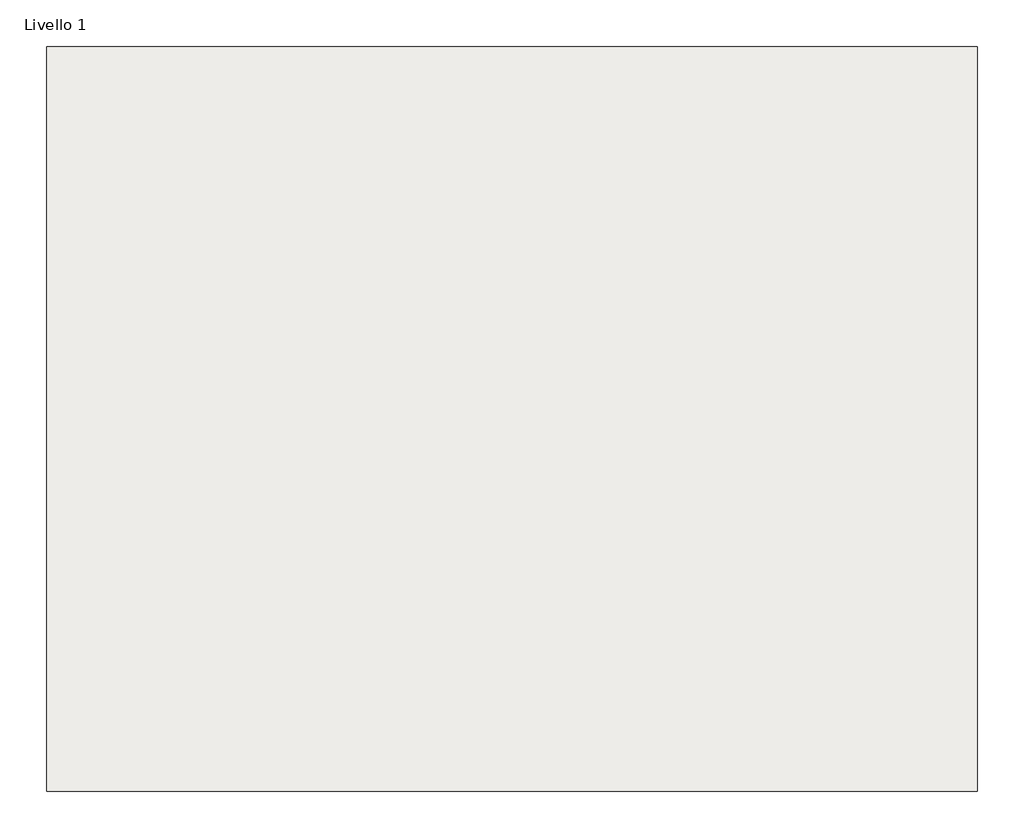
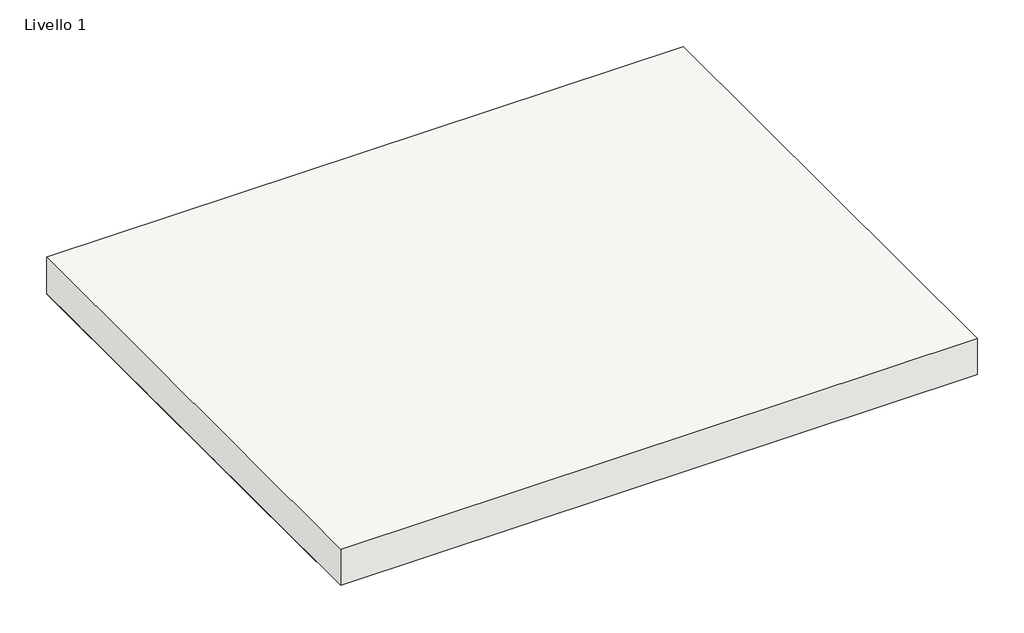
# One storey: 1 slab.
"""IFC4 building model written with IfcOpenShell, lengths in millimetres."""

import ifcopenshell
import ifcopenshell.guid

model = None  # the IFC model being written
_history = None  # IfcOwnerHistory: only IFC2X3 demands one
_inside = {}  # id of a spatial element -> (the spatial element, [elements in it])
_under = {}  # id of a project, library or spatial element -> (it, [spatial elements below it])
_declared = {}  # id of a project -> (the project, [libraries it declares])
_typed = {}  # id of a type object -> (the type object, [elements of that type])
_made_of = {}  # id of a material, layer set ... -> (it, [elements and type objects made of it])


def new_model(schema):
    """Start an empty IFC model of exactly this schema.

    Asked for "IFC4X3", IfcOpenShell would pick the latest addendum, in which some entities
    have other attributes; the version numbers below select the first issue.
    IFC2X3 requires an IfcOwnerHistory on every rooted entity: one is made here for all.
    """
    global model, _history
    if schema == "IFC4X3":
        model = ifcopenshell.file(schema_version=(4, 3, 0, 0))
    else:
        model = ifcopenshell.file(schema=schema)
    _inside.clear()
    _under.clear()
    _declared.clear()
    _typed.clear()
    _made_of.clear()
    _history = None
    if model.schema == "IFC2X3":
        org = make("IfcOrganization", Name="unknown")
        user = make(
            "IfcPersonAndOrganization",
            ThePerson=make("IfcPerson", FamilyName="unknown"),
            TheOrganization=org,
        )
        app = make(
            "IfcApplication",
            ApplicationDeveloper=org,
            Version="unknown",
            ApplicationFullName="unknown",
            ApplicationIdentifier="unknown",
        )
        _history = make(
            "IfcOwnerHistory",
            OwningUser=user,
            OwningApplication=app,
            ChangeAction="ADDED",
            CreationDate=0,
        )
    return model


def make(cls, **values):
    """One entity of the class cls with the attributes given. An attribute that is None is left unset."""
    return model.create_entity(
        cls, **{name: value for name, value in values.items() if value is not None}
    )


def rooted(cls, **values):
    """An entity with a GlobalId (a new one), such as an element, a storey or a relation."""
    return make(cls, GlobalId=ifcopenshell.guid.new(), OwnerHistory=_history, **values)


def si_unit(unit_type, name, prefix=None):
    """IfcSIUnit, for example si_unit("LENGTHUNIT", "METRE", prefix="MILLI")."""
    return make("IfcSIUnit", UnitType=unit_type, Prefix=prefix, Name=name)


def assignment(units):
    """IfcUnitAssignment: the units of a project."""
    return None if units is None else make("IfcUnitAssignment", Units=units)


def point(xyz):
    """IfcCartesianPoint."""
    return None if xyz is None else make("IfcCartesianPoint", Coordinates=xyz)


def direction(xyz):
    """IfcDirection."""
    return None if xyz is None else make("IfcDirection", DirectionRatios=xyz)


def frame(location, z_axis=None, x_axis=None):
    """IfcAxis2Placement3D, a coordinate frame: its origin and axes. An axis left out is left unset."""
    return make(
        "IfcAxis2Placement3D",
        Location=point(location),
        Axis=direction(z_axis),
        RefDirection=direction(x_axis),
    )


def origin():
    """The frame at (0, 0, 0) with its axes left unset."""
    return frame((0.0, 0.0, 0.0))


def place(relative_to, where):
    """IfcLocalPlacement: puts the frame where relative to a parent placement (None: the world)."""
    return make(
        "IfcLocalPlacement", PlacementRelTo=relative_to, RelativePlacement=where
    )


def context(
    kind, dimensions, precision=None, world=None, true_north=None, identifier=None
):
    """IfcGeometricRepresentationContext, for example the 3D "Model" context."""
    return make(
        "IfcGeometricRepresentationContext",
        ContextIdentifier=identifier,
        ContextType=kind,
        CoordinateSpaceDimension=dimensions,
        Precision=precision,
        WorldCoordinateSystem=world,
        TrueNorth=true_north,
    )


def project(units=None, contexts=None):
    """IfcProject with its units and contexts."""
    return rooted(
        "IfcProject",
        Name="project",
        RepresentationContexts=contexts,
        UnitsInContext=assignment(units),
    )


def spatial(cls, under=None, at=None, **own):
    """A site, building, storey or space (cls), placed at a placement, below another one or the project."""
    s = rooted(cls, ObjectPlacement=at, **own)
    if under is not None:
        _under.setdefault(under.id(), (under, []))[1].append(s)
    return s


def polyline(points):
    """IfcPolyline through the points."""
    return make("IfcPolyline", Points=[point(p) for p in points])


def outline(outer, holes=None, kind="AREA"):
    """IfcArbitraryClosedProfileDef: a profile drawn as a closed curve; with holes, ...WithVoids."""
    if holes is None:
        return make("IfcArbitraryClosedProfileDef", ProfileType=kind, OuterCurve=outer)
    return make(
        "IfcArbitraryProfileDefWithVoids",
        ProfileType=kind,
        OuterCurve=outer,
        InnerCurves=holes,
    )


def extrude(swept, where, along, depth):
    """IfcExtrudedAreaSolid: the profile swept, set in the frame where, extruded along a direction by depth."""
    return make(
        "IfcExtrudedAreaSolid",
        SweptArea=swept,
        Position=where,
        ExtrudedDirection=direction(along),
        Depth=depth,
    )


def shape(context_of_items, identifier, shape_type, items):
    """IfcShapeRepresentation: the items that make up one representation, for example the "Body"."""
    return make(
        "IfcShapeRepresentation",
        ContextOfItems=context_of_items,
        RepresentationIdentifier=identifier,
        RepresentationType=shape_type,
        Items=items,
    )


def made_of(thing, what):
    """Note that an element or type object is made of a material, layer set ...; save() writes the relation."""
    if what is not None:
        _made_of.setdefault(what.id(), (what, []))[1].append(thing)
    return thing


def element(
    cls,
    number,
    at=None,
    inside=None,
    cuts=None,
    type_object=None,
    material=None,
    context=None,
    identifier="Body",
    shape_type=None,
    held_by="IfcProductDefinitionShape",
    body=None,
    shapes=None,
    **own,
):
    """One element of the class cls, such as IfcWall. Its Tag is "e" and its number.

    at: its placement. inside: the storey or other place that contains it. cuts: it is an
    opening in that element (IfcRelVoidsElement). A single representation is given by context,
    identifier, shape_type and body (its items); several are given by shapes. held_by: the class
    of the entity that holds the representations. save() writes the other relations.
    """
    e = rooted(cls, Tag="e%d" % number, ObjectPlacement=at, **own)
    if body is not None:
        shapes = [shape(context, identifier, shape_type, body)]
    if shapes is not None:
        e.Representation = make(held_by, Representations=shapes)
    if inside is not None:
        _inside.setdefault(inside.id(), (inside, []))[1].append(e)
    if cuts is not None:
        rooted(
            "IfcRelVoidsElement", RelatingBuildingElement=cuts, RelatedOpeningElement=e
        )
    if type_object is not None:
        _typed.setdefault(type_object.id(), (type_object, []))[1].append(e)
    return made_of(e, material)


def aggregate(whole, parts):
    """IfcRelAggregates: a whole, such as a stair, and the parts it consists of."""
    return rooted("IfcRelAggregates", RelatingObject=whole, RelatedObjects=parts)


def save(model, path):
    """Write the relations noted so far, then the file.

    IfcRelAggregates (storeys below a building ...), IfcRelContainedInSpatialStructure (elements
    in a storey), IfcRelDefinesByType, IfcRelAssociatesMaterial and IfcRelDeclares: one each for
    every whole, place, type object, material and project.
    """
    for whole, parts in _under.values():
        aggregate(whole, parts)
    for where, things in _inside.values():
        rooted(
            "IfcRelContainedInSpatialStructure",
            RelatedElements=things,
            RelatingStructure=where,
        )
    for kind, things in _typed.values():
        rooted("IfcRelDefinesByType", RelatedObjects=things, RelatingType=kind)
    for what, things in _made_of.values():
        rooted("IfcRelAssociatesMaterial", RelatedObjects=things, RelatingMaterial=what)
    for by, libraries in _declared.values():
        rooted("IfcRelDeclares", RelatingContext=by, RelatedDefinitions=libraries)
    model.write(path)


model = new_model("IFC4")

# Units and contexts
model_context = context("Model", 3, world=origin())
ifc_project = project(units=[si_unit("LENGTHUNIT", "METRE", prefix="MILLI")], contexts=[model_context])

# Site, building, storey
site = spatial("IfcSite", under=ifc_project)
building = spatial("IfcBuilding", under=site)
storey = spatial("IfcBuildingStorey", under=building, Name="Livello 1", Elevation=0.0)

# Slab
placement = place(None, origin())
element("IfcSlab", 1, ObjectType="MAPEI - Sistema para a reparação e proteção de varandas com acabamento elastomérico", at=placement, inside=storey, context=model_context, shape_type="SweptSolid", body=[
    extrude(outline(polyline([(2707.7963918, -315.0877157), (207.7963918, -315.0877157), (207.7963918, 1684.9122843), (2707.7963918, 1684.9122843), (2707.7963918, -315.0877157)])), frame((0.0, 0.0, -150.0), z_axis=(0.0, 0.0, 1.0), x_axis=(1.0, 0.0, 0.0)), (0.0, 0.0, 1.0), 150.0),
    extrude(outline(polyline([(2541.1297251, -148.421049), (207.7963918, -148.421049), (207.7963918, 1684.9122843), (2541.1297251, 1684.9122843), (2541.1297251, -148.421049)])), frame((0.0, 0.0, -153.5), z_axis=(0.0, 0.0, 1.0), x_axis=(1.0, 0.0, 0.0)), (0.0, 0.0, 1.0), 3.5),
])

save(model, "model.ifc")
